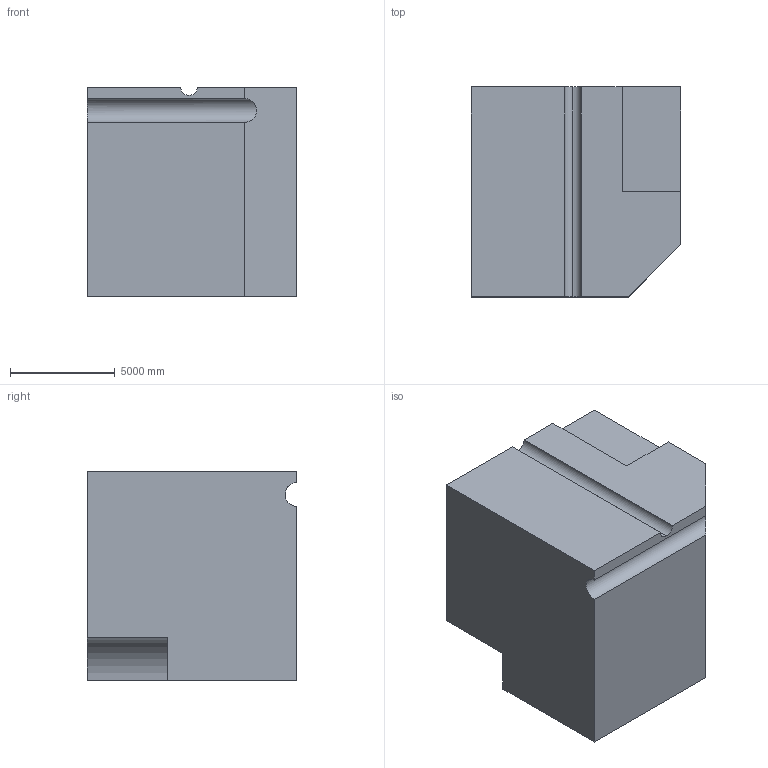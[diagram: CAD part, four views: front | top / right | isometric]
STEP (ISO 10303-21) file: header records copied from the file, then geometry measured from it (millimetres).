
FILE_DESCRIPTION (( 'STEP AP203' ), '1' );
FILE_NAME ('149.STEP', '2022-09-06T13:25:00', ( 'user' ), ( '' ), 'SwSTEP 2.0', 'SolidWorks 2021', '' );
FILE_SCHEMA (( 'CONFIG_CONTROL_DESIGN' ));
Length unit declared in the file: centimetre
Products named in the file (1): 149
Bounding box: 10000 x 10000 x 10000 mm (x, y, z)
Volume: 940688922744.7 mm3; surface area: 584099421 mm2
Topology: 1 solids, 1 shells, 17 faces, 45 edges, 30 vertices
Faces by surface type: plane 13, cylinder 4
Entity records: 603 total; most frequent: CARTESIAN_POINT 96, ORIENTED_EDGE 90, DIRECTION 87, EDGE_CURVE 45, VECTOR 37, LINE 37, VERTEX_POINT 30, AXIS2_PLACEMENT_3D 25
